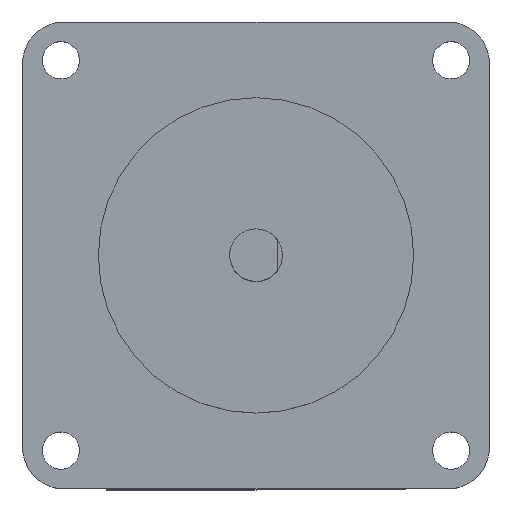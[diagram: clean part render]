
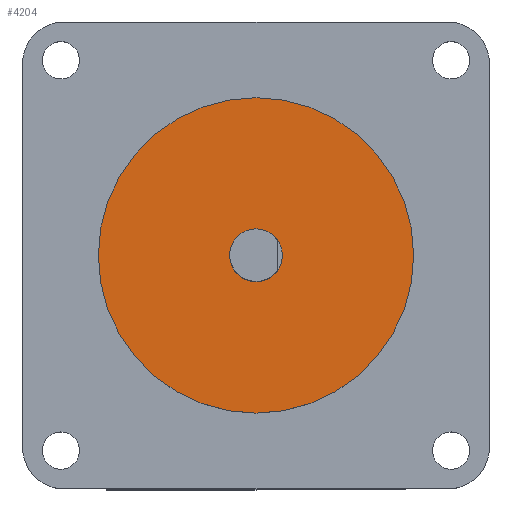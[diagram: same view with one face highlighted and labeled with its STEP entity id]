
A CAD part, top view. The second image highlights one B-rep face of the part: STEP entity #4204.
In plain terms, the highlighted planar face has unit normal (0, 0, 1).
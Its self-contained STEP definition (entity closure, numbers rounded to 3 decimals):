
#32 = VERTEX_POINT ( 'NONE', #2844 ) ;
#164 = CIRCLE ( 'NONE', #3944, 3.175 ) ;
#229 = VERTEX_POINT ( 'NONE', #2411 ) ;
#387 = DIRECTION ( 'NONE',  ( 0., 0., 1. ) ) ;
#442 = CIRCLE ( 'NONE', #3812, 19.05 ) ;
#500 = CARTESIAN_POINT ( 'NONE',  ( 0., 0., 1.6 ) ) ;
#535 = CIRCLE ( 'NONE', #2714, 3.175 ) ;
#572 = EDGE_CURVE ( 'NONE', #1661, #32, #164, .T. ) ;
#606 = DIRECTION ( 'NONE',  ( 1., 0., 0. ) ) ;
#828 = CARTESIAN_POINT ( 'NONE',  ( -3.175, 0., 1.6 ) ) ;
#844 = DIRECTION ( 'NONE',  ( 1., 0., 0. ) ) ;
#992 = ORIENTED_EDGE ( 'NONE', *, *, #3733, .T. ) ;
#1023 = AXIS2_PLACEMENT_3D ( 'NONE', #2360, #387, #2716 ) ;
#1029 = DIRECTION ( 'NONE',  ( 0., 0., 1. ) ) ;
#1262 = EDGE_LOOP ( 'NONE', ( #3753, #992 ) ) ;
#1523 = DIRECTION ( 'NONE',  ( 0., 0., 1. ) ) ;
#1635 = EDGE_LOOP ( 'NONE', ( #2815, #1638 ) ) ;
#1638 = ORIENTED_EDGE ( 'NONE', *, *, #2077, .T. ) ;
#1661 = VERTEX_POINT ( 'NONE', #828 ) ;
#2077 = EDGE_CURVE ( 'NONE', #2777, #229, #4226, .T. ) ;
#2216 = DIRECTION ( 'NONE',  ( 0., 0., -1. ) ) ;
#2322 = CARTESIAN_POINT ( 'NONE',  ( 0., 0., 1.6 ) ) ;
#2360 = CARTESIAN_POINT ( 'NONE',  ( 0., 0., 1.6 ) ) ;
#2411 = CARTESIAN_POINT ( 'NONE',  ( -19.05, 0., 1.6 ) ) ;
#2612 = FACE_BOUND ( 'NONE', #1262, .T. ) ;
#2714 = AXIS2_PLACEMENT_3D ( 'NONE', #500, #2833, #844 ) ;
#2716 = DIRECTION ( 'NONE',  ( 1., 0., 0. ) ) ;
#2777 = VERTEX_POINT ( 'NONE', #3191 ) ;
#2815 = ORIENTED_EDGE ( 'NONE', *, *, #3797, .T. ) ;
#2833 = DIRECTION ( 'NONE',  ( 0., 0., -1. ) ) ;
#2844 = CARTESIAN_POINT ( 'NONE',  ( 3.175, 0., 1.6 ) ) ;
#3008 = PLANE ( 'NONE',  #4237 ) ;
#3191 = CARTESIAN_POINT ( 'NONE',  ( 19.05, 0., 1.6 ) ) ;
#3342 = DIRECTION ( 'NONE',  ( 1., 0., 0. ) ) ;
#3521 = CARTESIAN_POINT ( 'NONE',  ( 0., 0., 1.6 ) ) ;
#3733 = EDGE_CURVE ( 'NONE', #32, #1661, #535, .T. ) ;
#3753 = ORIENTED_EDGE ( 'NONE', *, *, #572, .T. ) ;
#3797 = EDGE_CURVE ( 'NONE', #229, #2777, #442, .T. ) ;
#3812 = AXIS2_PLACEMENT_3D ( 'NONE', #3521, #1523, #3885 ) ;
#3885 = DIRECTION ( 'NONE',  ( 1., 0., 0. ) ) ;
#3944 = AXIS2_PLACEMENT_3D ( 'NONE', #2322, #2216, #606 ) ;
#3974 = CARTESIAN_POINT ( 'NONE',  ( 0., 0., 1.6 ) ) ;
#4204 = ADVANCED_FACE ( 'NONE', ( #4206, #2612 ), #3008, .T. ) ;
#4206 = FACE_OUTER_BOUND ( 'NONE', #1635, .T. ) ;
#4226 = CIRCLE ( 'NONE', #1023, 19.05 ) ;
#4237 = AXIS2_PLACEMENT_3D ( 'NONE', #3974, #1029, #3342 ) ;
